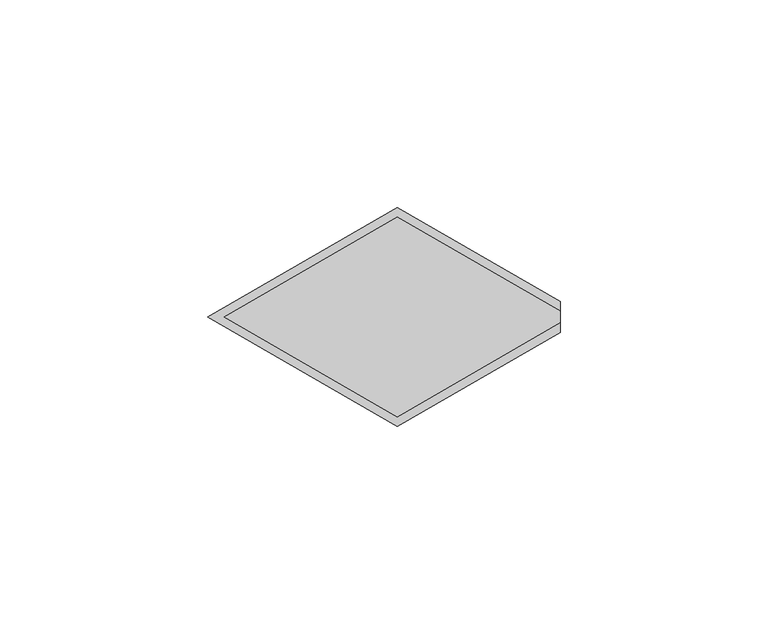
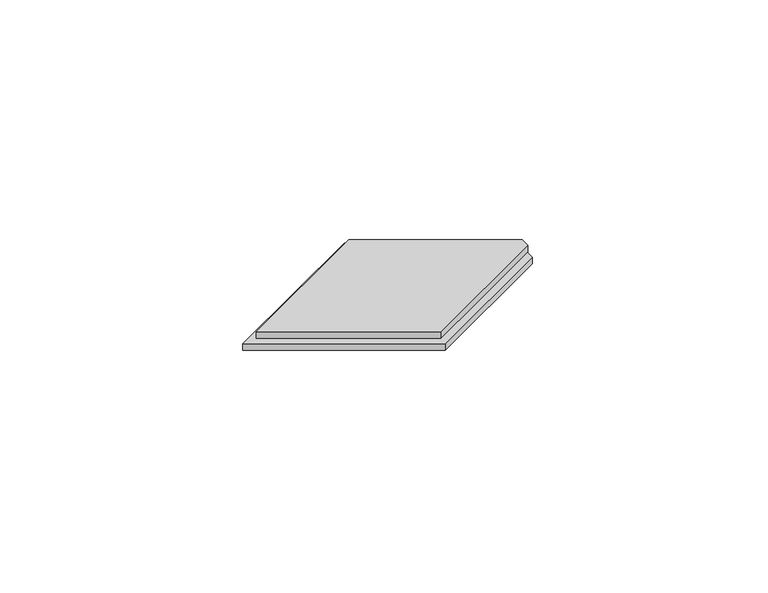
"""IFC4 building model written with IfcOpenShell, lengths in millimetres: proxy geometry, PBSHOP - CUBICA PISTACHE 4,8X8,3 : CUBICA PISTACHE - POSIÇÃO 03."""

from ifc_helpers import new_model, si_unit, frame, origin, origin_with_axes, place, context, project, spatial, polyline, outline, extrude, source, transform, mapped, element, save


def generic_models_0bb79e7c(model_context):
    return source(origin(), model_context, "Body", "SweptSolid", [
        extrude(outline(polyline([(0.0, -26.3094011), (-45.5692194, 0.0), (0.0, 26.3094011), (39.1692194, 3.6950417), (39.1692194, -3.6950417), (0.0, -26.3094011)])), origin_with_axes(), (0.0, 0.0, 1.0), 2.0),
        extrude(outline(polyline([(0.0, -24.0), (-41.5692194, 0.0), (0.0, 24.0), (39.1692194, 1.3856406), (39.1692194, -1.3856406), (0.0, -24.0)])), frame((0.0, 0.0, 2.0), z_axis=(0.0, 0.0, 1.0), x_axis=(1.0, 0.0, 0.0)), (0.0, 0.0, 1.0), 2.5),
    ])


if __name__ == "__main__":
    model = new_model("IFC4")
    model_context = context("Model", 3, world=origin())
    ifc_project = project(units=[si_unit("LENGTHUNIT", "METRE", prefix="MILLI")], contexts=[model_context])
    site = spatial("IfcSite", under=ifc_project)
    building = spatial("IfcBuilding", under=site)
    placement = place(None, origin())
    generic_models_shape = generic_models_0bb79e7c(model_context)
    element("IfcBuildingElementProxy", 1, Name="PBSHOP - CUBICA PISTACHE 4,8X8,3 : CUBICA PISTACHE - POSIÇÃO 03", ObjectType="PBSHOP - CUBICA PISTACHE 4,8X8,3 : CUBICA PISTACHE - POSIÇÃO 03", at=placement, inside=building, context=model_context, shape_type="MappedRepresentation", body=[
        mapped(generic_models_shape, transform((0.0, 0.0, 0.0), x_axis=(1.0, 0.0, 0.0), y_axis=(0.0, 1.0, 0.0), z_axis=(0.0, 0.0, 1.0))),
    ])
    save(model, "model.ifc")
